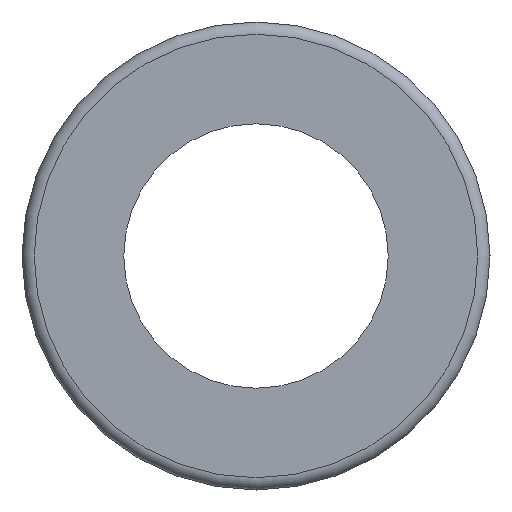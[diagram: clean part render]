
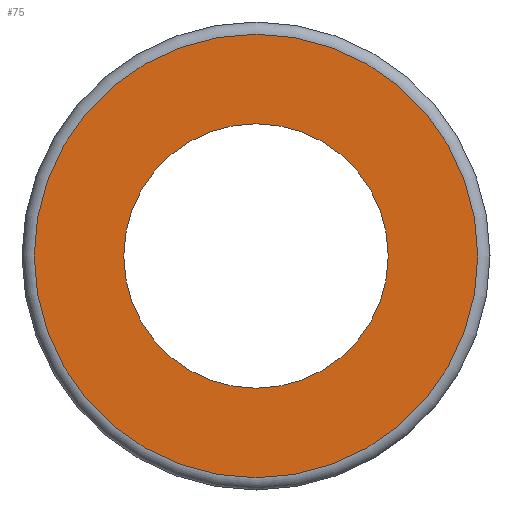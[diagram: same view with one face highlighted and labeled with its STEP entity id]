
A CAD part, left-side view. The second image highlights one B-rep face of the part: STEP entity #75.
In plain terms, the highlighted planar face has unit normal (-1, 0, 0).
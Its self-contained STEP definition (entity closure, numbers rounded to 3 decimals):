
#75=ADVANCED_FACE('',(#90,#91),#92,.T.);
#90=FACE_OUTER_BOUND('',#132,.T.);
#91=FACE_BOUND('',#133,.T.);
#92=PLANE('',#134);
#132=EDGE_LOOP('',(#174));
#133=EDGE_LOOP('',(#175));
#134=AXIS2_PLACEMENT_3D('',#176,#177,#178);
#174=ORIENTED_EDGE('',*,*,#244,.F.);
#175=ORIENTED_EDGE('',*,*,#245,.T.);
#176=CARTESIAN_POINT('',(43.661,8.7,0.0));
#177=DIRECTION('',(-1.0,0.0,0.0));
#178=DIRECTION('',(0.0,0.0,1.0));
#244=EDGE_CURVE('',#258,#258,#259,.T.);
#245=EDGE_CURVE('',#260,#260,#261,.T.);
#258=VERTEX_POINT('',#286);
#259=CIRCLE('',#287,10.9);
#260=VERTEX_POINT('',#288);
#261=CIRCLE('',#289,6.5);
#286=CARTESIAN_POINT('',(43.661,10.9,0.0));
#287=AXIS2_PLACEMENT_3D('',#314,#315,#316);
#288=CARTESIAN_POINT('',(43.661,6.5,0.0));
#289=AXIS2_PLACEMENT_3D('',#317,#318,#319);
#314=CARTESIAN_POINT('',(43.661,0.0,0.0));
#315=DIRECTION('',(1.0,0.0,0.0));
#316=DIRECTION('',(0.0,1.0,0.0));
#317=CARTESIAN_POINT('',(43.661,0.0,0.0));
#318=DIRECTION('',(1.0,0.0,0.0));
#319=DIRECTION('',(0.0,1.0,0.0));
